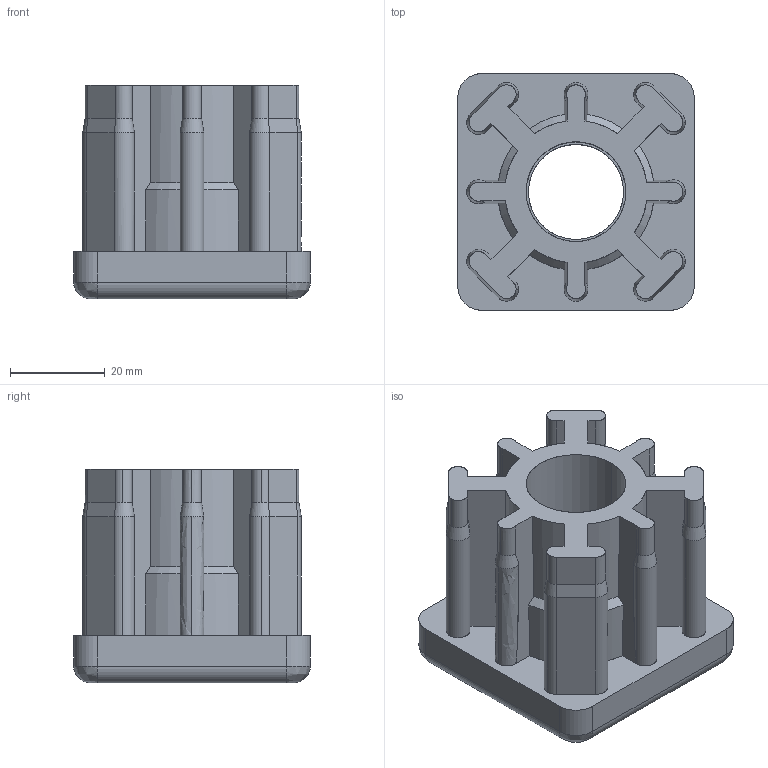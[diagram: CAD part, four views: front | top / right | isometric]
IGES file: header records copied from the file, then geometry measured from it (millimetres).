
Start section: SolidWorks IGES file using analytic representation for surfaces
Global section: file name: Y:\Tecnodin, S.L\Planos Clientes - Documentos\General\PLANOS CLIENTES\3D\-REVISAR-\CONTERAS TECOM\42006850320.IGS; native system: SolidWorks 2018; preprocessor: SolidWorks 2018; author: GerPro; date: 200226.122656; units: millimetre
Bounding box: 49.8 x 49.8 x 45 mm (x, y, z)
Surface area: 22166.8 mm2 (no closed solid volume)
Topology: 0 solids, 0 shells, 180 faces, 1654 edges, 1654 vertices
Faces by surface type: revolution 106, bspline 74
